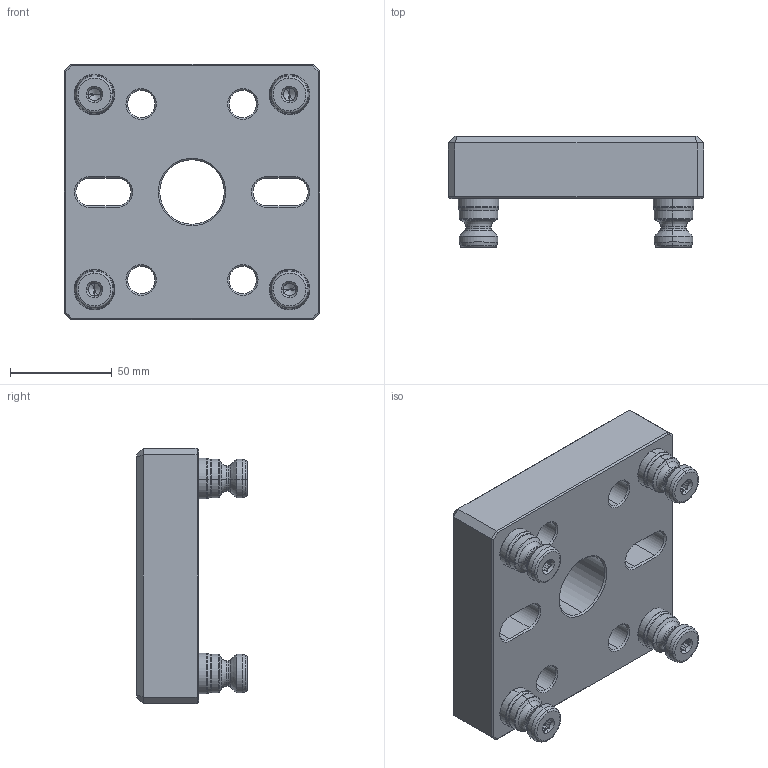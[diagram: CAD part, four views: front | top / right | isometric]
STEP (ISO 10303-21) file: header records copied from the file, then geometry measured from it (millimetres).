
FILE_DESCRIPTION (( 'STEP AP214' ), '1' );
FILE_NAME ('RL96-MP.STEP', '2019-12-04T22:33:18', ( '' ), ( '' ), 'SwSTEP 2.0', 'SolidWorks 2018', '' );
FILE_SCHEMA (( 'AUTOMOTIVE_DESIGN' ));
Length unit declared in the file: inch
Products named in the file (4): RL96-MP; PS20F_HARD TURN; 91290A520_BLACK-OXIDE CLASS 12.9 SOCKET HEAD CAP SCREW_91290A520
Assembly tree (9 placements, depth 2):
  RL96-MP
    RL96-MP
    91290A520_BLACK-OXIDE CLASS 12.9 SOCKET HEAD CAP SCREW_91290A520  x4
    PS20F_HARD TURN  x4
Bounding box: 125.73 x 54.48 x 125.73 mm (x, y, z)
Volume: 433174.6 mm3; surface area: 78057.3 mm2
Topology: 9 solids, 9 shells, 828 faces, 2042 edges, 1248 vertices
Faces by surface type: cylinder 378, cone 180, plane 174, torus 88, bspline 8
Entity records: 10823 total; most frequent: CARTESIAN_POINT 3673, ORIENTED_EDGE 1442, DIRECTION 1431, EDGE_CURVE 721, AXIS2_PLACEMENT_3D 556, VERTEX_POINT 438, EDGE_LOOP 339, LINE 319
